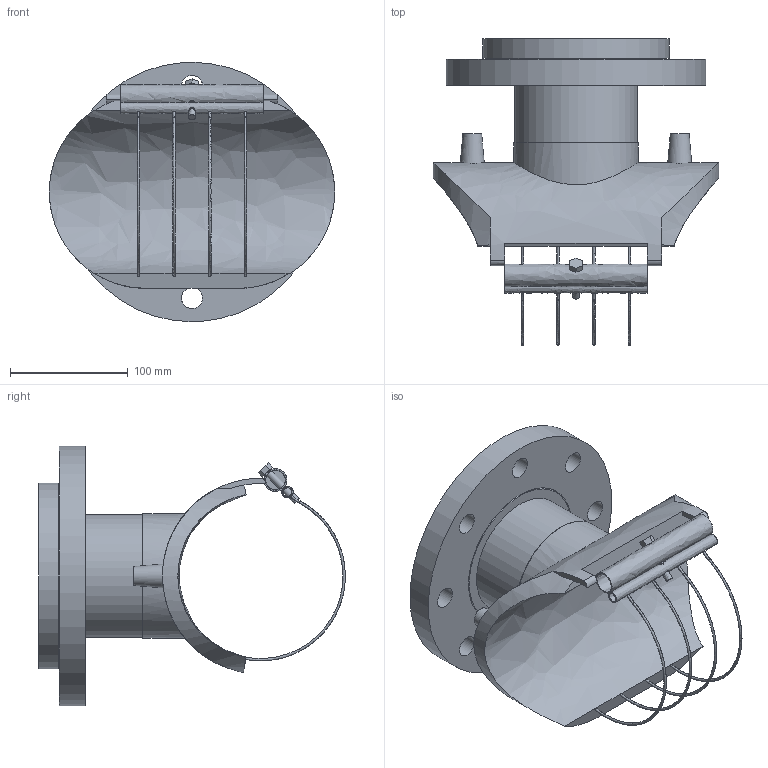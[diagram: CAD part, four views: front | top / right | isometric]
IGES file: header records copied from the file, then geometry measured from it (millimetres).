
Global section: file name: 4959X4140100T; native system: Autodesk Inventor 2019; preprocessor: unknown; author: KIM; date: 20220428.113659; units: millimetre
Bounding box: 242 x 260 x 219.94 mm (x, y, z)
Volume: 1681664 mm3; surface area: 309498.2 mm2
Topology: 2 solids, 2 shells, 78 faces, 237 edges, 165 vertices
Faces by surface type: bspline 78
